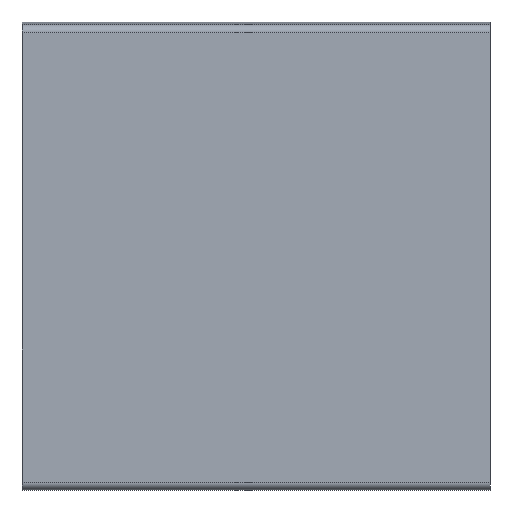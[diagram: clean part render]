
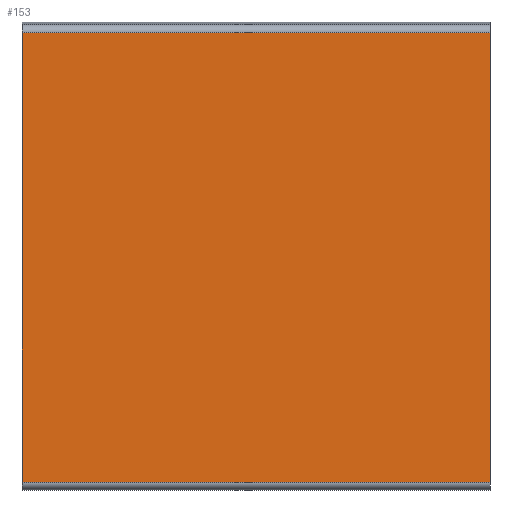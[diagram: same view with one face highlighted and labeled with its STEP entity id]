
A CAD part, front view. The second image highlights one B-rep face of the part: STEP entity #153.
In plain terms, the highlighted planar face has unit normal (0, -1, 0).
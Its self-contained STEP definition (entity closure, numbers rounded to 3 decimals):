
#127 = VERTEX_POINT( '', #322 );
#137 = EDGE_CURVE( '', #187, #209, #334, .T. );
#153 = ADVANCED_FACE( '', ( #351 ), #352, .T. );
#171 = VERTEX_POINT( '', #372 );
#183 = EDGE_CURVE( '', #187, #171, #385, .T. );
#187 = VERTEX_POINT( '', #389 );
#209 = VERTEX_POINT( '', #413 );
#215 = EDGE_CURVE( '', #127, #209, #420, .T. );
#233 = EDGE_CURVE( '', #171, #127, #440, .T. );
#322 = CARTESIAN_POINT( '', ( 46., -21., -49. ) );
#334 = LINE( '', #549, #550 );
#351 = FACE_OUTER_BOUND( '', #572, .T. );
#352 = PLANE( '', #573 );
#372 = CARTESIAN_POINT( '', ( -14., -21., -49. ) );
#385 = LINE( '', #614, #615 );
#389 = CARTESIAN_POINT( '', ( -14., -21., 8.651 ) );
#413 = CARTESIAN_POINT( '', ( 46., -21., 8.651 ) );
#420 = LINE( '', #657, #658 );
#440 = LINE( '', #684, #685 );
#549 = CARTESIAN_POINT( '', ( -14., -21., 8.651 ) );
#550 = VECTOR( '', #808, 1. );
#572 = EDGE_LOOP( '', ( #823, #824, #825, #826 ) );
#573 = AXIS2_PLACEMENT_3D( '', #827, #828, #829 );
#614 = CARTESIAN_POINT( '', ( -14., -21., 8.651 ) );
#615 = VECTOR( '', #863, 1. );
#657 = CARTESIAN_POINT( '', ( 46., -21., 8.651 ) );
#658 = VECTOR( '', #906, 1. );
#684 = CARTESIAN_POINT( '', ( -14., -21., -49. ) );
#685 = VECTOR( '', #933, 1. );
#808 = DIRECTION( '', ( 1., 0., 0. ) );
#823 = ORIENTED_EDGE( '', *, *, #215, .T. );
#824 = ORIENTED_EDGE( '', *, *, #137, .F. );
#825 = ORIENTED_EDGE( '', *, *, #183, .T. );
#826 = ORIENTED_EDGE( '', *, *, #233, .T. );
#827 = CARTESIAN_POINT( '', ( -14., -21., -49. ) );
#828 = DIRECTION( '', ( 0., -1., 0. ) );
#829 = DIRECTION( '', ( 0., 0., -1. ) );
#863 = DIRECTION( '', ( 0., 0., -1. ) );
#906 = DIRECTION( '', ( 0., 0., 1. ) );
#933 = DIRECTION( '', ( 1., 0., 0. ) );
